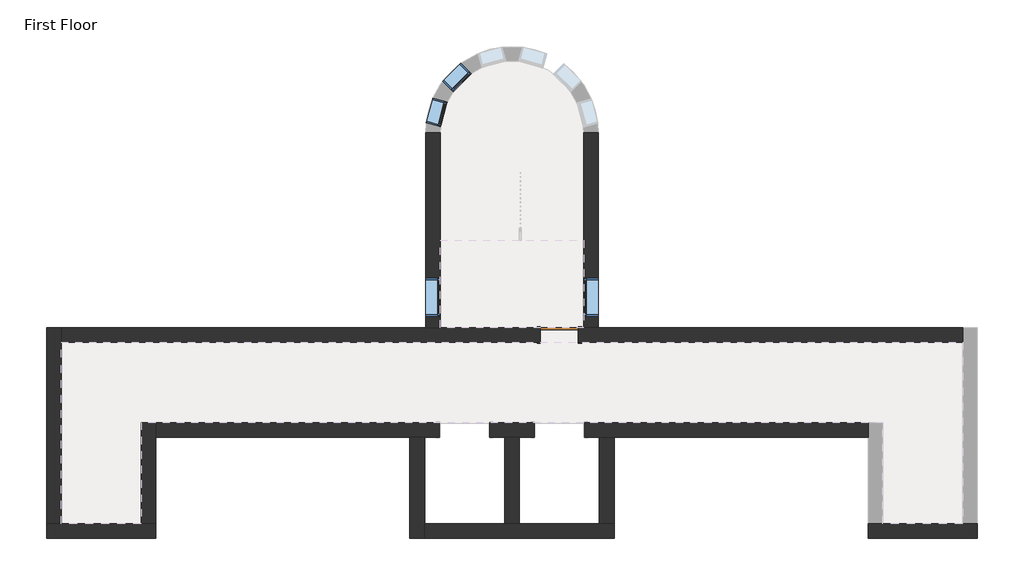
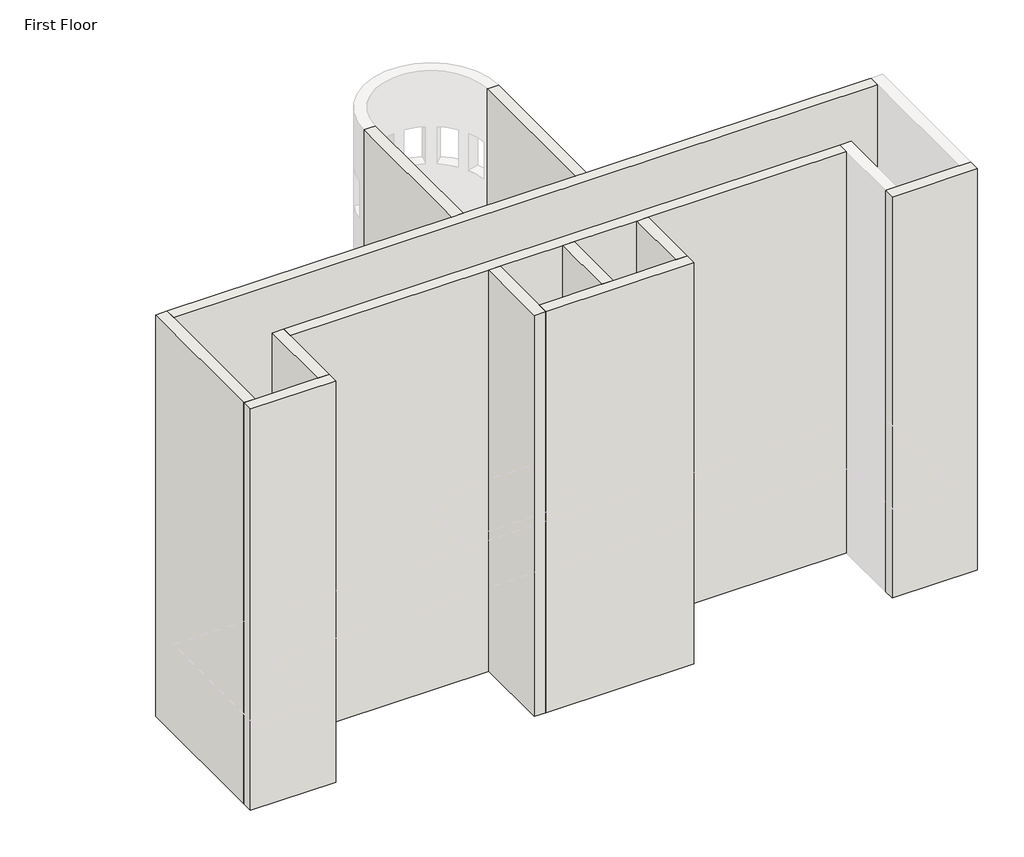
# One storey, part 1 of 5: 12 walls, 4 windows, 1 door.
"""IFC4 building model written with IfcOpenShell, lengths in millimetres."""

import ifcopenshell
import ifcopenshell.guid

model = None  # the IFC model being written
_history = None  # IfcOwnerHistory: only IFC2X3 demands one
_inside = {}  # id of a spatial element -> (the spatial element, [elements in it])
_under = {}  # id of a project, library or spatial element -> (it, [spatial elements below it])
_declared = {}  # id of a project -> (the project, [libraries it declares])
_typed = {}  # id of a type object -> (the type object, [elements of that type])
_made_of = {}  # id of a material, layer set ... -> (it, [elements and type objects made of it])


def new_model(schema):
    """Start an empty IFC model of exactly this schema.

    Asked for "IFC4X3", IfcOpenShell would pick the latest addendum, in which some entities
    have other attributes; the version numbers below select the first issue.
    IFC2X3 requires an IfcOwnerHistory on every rooted entity: one is made here for all.
    """
    global model, _history
    if schema == "IFC4X3":
        model = ifcopenshell.file(schema_version=(4, 3, 0, 0))
    else:
        model = ifcopenshell.file(schema=schema)
    _inside.clear()
    _under.clear()
    _declared.clear()
    _typed.clear()
    _made_of.clear()
    _history = None
    if model.schema == "IFC2X3":
        org = make("IfcOrganization", Name="unknown")
        user = make(
            "IfcPersonAndOrganization",
            ThePerson=make("IfcPerson", FamilyName="unknown"),
            TheOrganization=org,
        )
        app = make(
            "IfcApplication",
            ApplicationDeveloper=org,
            Version="unknown",
            ApplicationFullName="unknown",
            ApplicationIdentifier="unknown",
        )
        _history = make(
            "IfcOwnerHistory",
            OwningUser=user,
            OwningApplication=app,
            ChangeAction="ADDED",
            CreationDate=0,
        )
    return model


def make(cls, **values):
    """One entity of the class cls with the attributes given. An attribute that is None is left unset."""
    return model.create_entity(
        cls, **{name: value for name, value in values.items() if value is not None}
    )


def rooted(cls, **values):
    """An entity with a GlobalId (a new one), such as an element, a storey or a relation."""
    return make(cls, GlobalId=ifcopenshell.guid.new(), OwnerHistory=_history, **values)


def si_unit(unit_type, name, prefix=None):
    """IfcSIUnit, for example si_unit("LENGTHUNIT", "METRE", prefix="MILLI")."""
    return make("IfcSIUnit", UnitType=unit_type, Prefix=prefix, Name=name)


def assignment(units):
    """IfcUnitAssignment: the units of a project."""
    return None if units is None else make("IfcUnitAssignment", Units=units)


def point(xyz):
    """IfcCartesianPoint."""
    return None if xyz is None else make("IfcCartesianPoint", Coordinates=xyz)


def direction(xyz):
    """IfcDirection."""
    return None if xyz is None else make("IfcDirection", DirectionRatios=xyz)


def frame(location, z_axis=None, x_axis=None):
    """IfcAxis2Placement3D, a coordinate frame: its origin and axes. An axis left out is left unset."""
    return make(
        "IfcAxis2Placement3D",
        Location=point(location),
        Axis=direction(z_axis),
        RefDirection=direction(x_axis),
    )


def origin():
    """The frame at (0, 0, 0) with its axes left unset."""
    return frame((0.0, 0.0, 0.0))


def origin_with_axes():
    """The frame at (0, 0, 0) with the z axis (0, 0, 1) and the x axis (1, 0, 0) written out."""
    return frame((0.0, 0.0, 0.0), z_axis=(0.0, 0.0, 1.0), x_axis=(1.0, 0.0, 0.0))


def place(relative_to, where):
    """IfcLocalPlacement: puts the frame where relative to a parent placement (None: the world)."""
    return make(
        "IfcLocalPlacement", PlacementRelTo=relative_to, RelativePlacement=where
    )


def context(
    kind, dimensions, precision=None, world=None, true_north=None, identifier=None
):
    """IfcGeometricRepresentationContext, for example the 3D "Model" context."""
    return make(
        "IfcGeometricRepresentationContext",
        ContextIdentifier=identifier,
        ContextType=kind,
        CoordinateSpaceDimension=dimensions,
        Precision=precision,
        WorldCoordinateSystem=world,
        TrueNorth=true_north,
    )


def project(units=None, contexts=None):
    """IfcProject with its units and contexts."""
    return rooted(
        "IfcProject",
        Name="project",
        RepresentationContexts=contexts,
        UnitsInContext=assignment(units),
    )


def spatial(cls, under=None, at=None, **own):
    """A site, building, storey or space (cls), placed at a placement, below another one or the project."""
    s = rooted(cls, ObjectPlacement=at, **own)
    if under is not None:
        _under.setdefault(under.id(), (under, []))[1].append(s)
    return s


def polyline(points):
    """IfcPolyline through the points."""
    return make("IfcPolyline", Points=[point(p) for p in points])


def outline(outer, holes=None, kind="AREA"):
    """IfcArbitraryClosedProfileDef: a profile drawn as a closed curve; with holes, ...WithVoids."""
    if holes is None:
        return make("IfcArbitraryClosedProfileDef", ProfileType=kind, OuterCurve=outer)
    return make(
        "IfcArbitraryProfileDefWithVoids",
        ProfileType=kind,
        OuterCurve=outer,
        InnerCurves=holes,
    )


def extrude(swept, where, along, depth):
    """IfcExtrudedAreaSolid: the profile swept, set in the frame where, extruded along a direction by depth."""
    return make(
        "IfcExtrudedAreaSolid",
        SweptArea=swept,
        Position=where,
        ExtrudedDirection=direction(along),
        Depth=depth,
    )


def faces_of(points, faces, orient=None, outer=None):
    """IfcFace entities. A face is a list of loops; a loop is a list of indices into points, from 0.

    orient and outer hold one flag for each loop. By default every Orientation is true, the
    first loop of a face is its IfcFaceOuterBound and the others are IfcFaceBound.
    """
    made = []
    for i, loops in enumerate(faces):
        bounds = []
        for j, loop in enumerate(loops):
            is_outer = j == 0 if outer is None else outer[i][j]
            bounds.append(
                make(
                    "IfcFaceOuterBound" if is_outer else "IfcFaceBound",
                    Bound=make("IfcPolyLoop", Polygon=[points[k] for k in loop]),
                    Orientation=True if orient is None else orient[i][j],
                )
            )
        made.append(make("IfcFace", Bounds=bounds))
    return made


def faceted_brep(points, faces, orient=None, outer=None, voids=None):
    """IfcFacetedBrep: a solid bounded by flat faces; with voids (closed shells), ...WithVoids."""
    shared = [point(p) for p in points]
    hull = make("IfcClosedShell", CfsFaces=faces_of(shared, faces, orient, outer))
    if voids is None:
        return make("IfcFacetedBrep", Outer=hull)
    return make(
        "IfcFacetedBrepWithVoids",
        Outer=hull,
        Voids=[
            make(cls, CfsFaces=faces_of(shared, fs, o, b)) for cls, fs, o, b in voids
        ],
    )


def shape(context_of_items, identifier, shape_type, items):
    """IfcShapeRepresentation: the items that make up one representation, for example the "Body"."""
    return make(
        "IfcShapeRepresentation",
        ContextOfItems=context_of_items,
        RepresentationIdentifier=identifier,
        RepresentationType=shape_type,
        Items=items,
    )


def source(mapping_origin, context_of_items, identifier, shape_type, items):
    """IfcRepresentationMap: a shape defined once, which mapped items show again and again."""
    return make(
        "IfcRepresentationMap",
        MappingOrigin=mapping_origin,
        MappedRepresentation=shape(context_of_items, identifier, shape_type, items),
    )


def transform(
    local_origin,
    x_axis=None,
    y_axis=None,
    z_axis=None,
    scale=None,
    scale2=None,
    scale3=None,
    uniform=True,
):
    """IfcCartesianTransformationOperator3D, or its non-uniform kind. x_axis, y_axis, z_axis: its Axis1, 2, 3."""
    if uniform:
        return make(
            "IfcCartesianTransformationOperator3D",
            Axis1=direction(x_axis),
            Axis2=direction(y_axis),
            LocalOrigin=point(local_origin),
            Scale=scale,
            Axis3=direction(z_axis),
        )
    return make(
        "IfcCartesianTransformationOperator3DnonUniform",
        Axis1=direction(x_axis),
        Axis2=direction(y_axis),
        LocalOrigin=point(local_origin),
        Scale=scale,
        Axis3=direction(z_axis),
        Scale2=scale2,
        Scale3=scale3,
    )


def mapped(mapping_source, mapping_target):
    """IfcMappedItem: shows the shape of a source again, moved by a transform."""
    return make(
        "IfcMappedItem", MappingSource=mapping_source, MappingTarget=mapping_target
    )


def made_of(thing, what):
    """Note that an element or type object is made of a material, layer set ...; save() writes the relation."""
    if what is not None:
        _made_of.setdefault(what.id(), (what, []))[1].append(thing)
    return thing


def element(
    cls,
    number,
    at=None,
    inside=None,
    cuts=None,
    type_object=None,
    material=None,
    context=None,
    identifier="Body",
    shape_type=None,
    held_by="IfcProductDefinitionShape",
    body=None,
    shapes=None,
    **own,
):
    """One element of the class cls, such as IfcWall. Its Tag is "e" and its number.

    at: its placement. inside: the storey or other place that contains it. cuts: it is an
    opening in that element (IfcRelVoidsElement). A single representation is given by context,
    identifier, shape_type and body (its items); several are given by shapes. held_by: the class
    of the entity that holds the representations. save() writes the other relations.
    """
    e = rooted(cls, Tag="e%d" % number, ObjectPlacement=at, **own)
    if body is not None:
        shapes = [shape(context, identifier, shape_type, body)]
    if shapes is not None:
        e.Representation = make(held_by, Representations=shapes)
    if inside is not None:
        _inside.setdefault(inside.id(), (inside, []))[1].append(e)
    if cuts is not None:
        rooted(
            "IfcRelVoidsElement", RelatingBuildingElement=cuts, RelatedOpeningElement=e
        )
    if type_object is not None:
        _typed.setdefault(type_object.id(), (type_object, []))[1].append(e)
    return made_of(e, material)


def aggregate(whole, parts):
    """IfcRelAggregates: a whole, such as a stair, and the parts it consists of."""
    return rooted("IfcRelAggregates", RelatingObject=whole, RelatedObjects=parts)


def save(model, path):
    """Write the relations noted so far, then the file.

    IfcRelAggregates (storeys below a building ...), IfcRelContainedInSpatialStructure (elements
    in a storey), IfcRelDefinesByType, IfcRelAssociatesMaterial and IfcRelDeclares: one each for
    every whole, place, type object, material and project.
    """
    for whole, parts in _under.values():
        aggregate(whole, parts)
    for where, things in _inside.values():
        rooted(
            "IfcRelContainedInSpatialStructure",
            RelatedElements=things,
            RelatingStructure=where,
        )
    for kind, things in _typed.values():
        rooted("IfcRelDefinesByType", RelatedObjects=things, RelatingType=kind)
    for what, things in _made_of.values():
        rooted("IfcRelAssociatesMaterial", RelatedObjects=things, RelatingMaterial=what)
    for by, libraries in _declared.values():
        rooted("IfcRelDeclares", RelatingContext=by, RelatedDefinitions=libraries)
    model.write(path)


def door_632be17d(model_context):
    return source(origin(), model_context, "Body", "SweptSolid", [
        extrude(outline(polyline([(2209.8, -533.4), (0.0, -533.4), (0.0, -457.2), (2133.6, -457.2), (2133.6, 457.2), (0.0, 457.2), (0.0, 533.4), (2209.8, 533.4), (2209.8, -533.4)])), frame((0.0, 176.2125, 0.0), z_axis=(0.0, 1.0, 0.0), x_axis=(0.0, 0.0, 1.0)), (0.0, 0.0, 1.0), 25.4),
        extrude(outline(polyline([(2209.8, 533.4), (2209.8, -533.4), (0.0, -533.4), (0.0, -457.2), (2133.6, -457.2), (2133.6, 457.2), (0.0, 457.2), (0.0, 533.4), (2209.8, 533.4)])), frame((0.0, -201.6125, 0.0), z_axis=(0.0, 1.0, 0.0), x_axis=(0.0, 0.0, 1.0)), (0.0, 0.0, 1.0), 25.4),
        extrude(outline(polyline([(457.2, 125.4125), (-457.2, 125.4125), (-457.2, 176.2125), (457.2, 176.2125), (457.2, 125.4125)])), origin_with_axes(), (0.0, 0.0, 1.0), 2133.6),
    ])


def window_60baf983(model_context):
    return source(origin(), model_context, "Body", "SweptSolid", [
        extrude(outline(polyline([(203.2, 128.5875), (-279.4, 128.5875), (-279.4, 141.2875), (203.2, 141.2875), (203.2, 128.5875)])), frame((0.0, 0.0, 977.9), z_axis=(0.0, 0.0, 1.0), x_axis=(1.0, 0.0, 0.0)), (0.0, 0.0, 1.0), 1092.2),
        extrude(outline(polyline([(2114.55, -323.85), (933.45, -323.85), (933.45, 247.65), (2114.55, 247.65), (2114.55, -323.85)]), holes=[polyline([(2070.1, -279.4), (2070.1, 203.2), (977.9, 203.2), (977.9, -279.4), (2070.1, -279.4)])]), frame((0.0, 112.7125, 0.0), z_axis=(0.0, 1.0, 0.0), x_axis=(0.0, 0.0, 1.0)), (0.0, 0.0, 1.0), 44.45),
        extrude(outline(polyline([(2133.6, -342.9), (914.4, -342.9), (914.4, 266.7), (2133.6, 266.7), (2133.6, -342.9)]), holes=[polyline([(2101.85, -311.15), (2101.85, 234.95), (946.15, 234.95), (946.15, -311.15), (2101.85, -311.15)])]), frame((0.0, -176.2125, 0.0), z_axis=(0.0, 1.0, 0.0), x_axis=(0.0, 0.0, 1.0)), (0.0, 0.0, 1.0), 288.925),
        extrude(outline(polyline([(2133.6, 266.7), (2133.6, -342.9), (914.4, -342.9), (914.4, 266.7), (2133.6, 266.7)]), holes=[polyline([(2114.55, 247.65), (933.45, 247.65), (933.45, -323.85), (2114.55, -323.85), (2114.55, 247.65)])]), frame((0.0, 112.7125, 0.0), z_axis=(0.0, 1.0, 0.0), x_axis=(0.0, 0.0, 1.0)), (0.0, 0.0, 1.0), 63.5),
    ])


def window_15c49d37(model_context):
    return source(origin(), model_context, "Body", "SweptSolid", [
        extrude(outline(polyline([(355.6, 128.5875), (-431.8, 128.5875), (-431.8, 141.2875), (355.6, 141.2875), (355.6, 128.5875)])), frame((0.0, 0.0, 977.9), z_axis=(0.0, 0.0, 1.0), x_axis=(1.0, 0.0, 0.0)), (0.0, 0.0, 1.0), 1092.2),
        extrude(outline(polyline([(2114.55, -476.25), (933.45, -476.25), (933.45, 400.05), (2114.55, 400.05), (2114.55, -476.25)]), holes=[polyline([(2070.1, -431.8), (2070.1, 355.6), (977.9, 355.6), (977.9, -431.8), (2070.1, -431.8)])]), frame((0.0, 112.7125, 0.0), z_axis=(0.0, 1.0, 0.0), x_axis=(0.0, 0.0, 1.0)), (0.0, 0.0, 1.0), 44.45),
        extrude(outline(polyline([(2133.6, -495.3), (914.4, -495.3), (914.4, 419.1), (2133.6, 419.1), (2133.6, -495.3)]), holes=[polyline([(2101.85, -463.55), (2101.85, 387.35), (946.15, 387.35), (946.15, -463.55), (2101.85, -463.55)])]), frame((0.0, -176.2125, 0.0), z_axis=(0.0, 1.0, 0.0), x_axis=(0.0, 0.0, 1.0)), (0.0, 0.0, 1.0), 288.925),
        extrude(outline(polyline([(2133.6, 419.1), (2133.6, -495.3), (914.4, -495.3), (914.4, 419.1), (2133.6, 419.1)]), holes=[polyline([(2114.55, 400.05), (933.45, 400.05), (933.45, -476.25), (2114.55, -476.25), (2114.55, 400.05)])]), frame((0.0, 112.7125, 0.0), z_axis=(0.0, 1.0, 0.0), x_axis=(0.0, 0.0, 1.0)), (0.0, 0.0, 1.0), 63.5),
    ])


model = new_model("IFC4")

# Units and contexts
model_context = context("Model", 3, world=origin())
ifc_project = project(units=[si_unit("LENGTHUNIT", "METRE", prefix="MILLI")], contexts=[model_context])

# Site, building, storey
site = spatial("IfcSite", under=ifc_project)
building = spatial("IfcBuilding", under=site)
storey = spatial("IfcBuildingStorey", under=building, Name="First Floor", Elevation=0.0)

# Door
placement = place(None, origin())
door_shape = door_632be17d(model_context)
element("IfcDoor", 1, ObjectType="Single-Flush : 36\" x 84\"", at=placement, inside=storey, context=model_context, shape_type="MappedRepresentation", body=[
    mapped(door_shape, transform((-5102.6149687, 4715.9758812, 0.0), x_axis=(1.0, 0.0, 0.0), y_axis=(0.0, 1.0, 0.0), z_axis=(0.0, 0.0, 1.0))),
])

# Walls
element("IfcWall", 2, ObjectType="Exterior - Brick on Mtl. Stud", at=placement, inside=storey, context=model_context, shape_type="Brep", body=[
    faceted_brep([(-8707.8274687, 2253.7633812, 0.0), (-8707.8274687, -184.6366188, 0.0), (-8707.8274687, -184.6366188, 13106.4), (-8707.8274687, 2253.7633812, 13106.4), (-8355.4024687, 2253.7633812, 0.0), (-8355.4024687, 2253.7633812, 13106.4), (-8355.4024687, 167.7883812, 13106.4), (-8355.4024687, -184.6366188, 13106.4), (-8355.4024687, -184.6366188, 0.0), (-8355.4024687, 167.7883812, 0.0)], [[[0, 1, 2, 3]], [[4, 5, 6, 7, 8, 9]], [[1, 0, 4, 9, 8]], [[3, 2, 7, 6, 5]], [[2, 1, 8, 7]], [[0, 3, 5, 4]]]),
])
element("IfcWall", 3, ObjectType="Exterior - Brick on Mtl. Stud", at=placement, inside=storey, context=model_context, shape_type="Brep", body=[
    faceted_brep([(-8355.4024687, -184.6366188, 0.0), (-3783.4024687, -184.6366188, 0.0), (-3783.4024687, -184.6366188, 13106.4), (-8355.4024687, -184.6366188, 13106.4), (-8355.4024687, 167.7883812, 0.0), (-8355.4024687, 167.7883812, 13106.4), (-6421.8274687, 167.7883812, 13106.4), (-6069.4024687, 167.7883812, 13106.4), (-4135.8274687, 167.7883812, 13106.4), (-3783.4024687, 167.7883812, 13106.4), (-3783.4024687, 167.7883812, 0.0), (-4135.8274687, 167.7883812, 0.0), (-6069.4024687, 167.7883812, 0.0), (-6421.8274687, 167.7883812, 0.0)], [[[0, 1, 2, 3]], [[4, 5, 6, 7, 8, 9, 10, 11, 12, 13]], [[1, 0, 4, 13, 12, 11, 10]], [[3, 2, 9, 8, 7, 6, 5]], [[2, 1, 10, 9]], [[0, 3, 5, 4]]]),
])
element("IfcWall", 4, ObjectType="Exterior - Brick on Mtl. Stud", at=placement, inside=storey, context=model_context, shape_type="SweptSolid", body=[
    extrude(outline(polyline([(-3783.4024687, 2253.7633812), (-3783.4024687, 167.7883812), (-4135.8274687, 167.7883812), (-4135.8274687, 2253.7633812), (-3783.4024687, 2253.7633812)])), origin_with_axes(), (0.0, 0.0, 1.0), 13106.4),
])
element("IfcWall", 5, ObjectType="Exterior - Brick on Mtl. Stud", at=placement, inside=storey, context=model_context, shape_type="Brep", body=[
    faceted_brep([(-14832.4024687, 2606.1883812, 0.0), (-7998.2149687, 2606.1883812, 0.0), (-7998.2149687, 2253.7633812, 0.0), (-8355.4024687, 2253.7633812, 0.0), (-8707.8274687, 2253.7633812, 0.0), (-14832.4024687, 2253.7633812, 0.0), (-6779.0149687, 2606.1883812, 0.0), (-5712.2149687, 2606.1883812, 0.0), (-5712.2149687, 2253.7633812, 0.0), (-6069.4024687, 2253.7633812, 0.0), (-6421.8274687, 2253.7633812, 0.0), (-6779.0149687, 2253.7633812, 0.0), (-4493.0149687, 2606.1883812, 0.0), (2341.1725313, 2606.1883812, 0.0), (2341.1725313, 2253.7633812, 0.0), (-3783.4024687, 2253.7633812, 0.0), (-4135.8274687, 2253.7633812, 0.0), (-4493.0149687, 2253.7633812, 0.0), (-14832.4024687, 2253.7633812, 13106.4), (-8707.8274687, 2253.7633812, 13106.4), (-8355.4024687, 2253.7633812, 13106.4), (-6421.8274687, 2253.7633812, 13106.4), (-6069.4024687, 2253.7633812, 13106.4), (-4135.8274687, 2253.7633812, 13106.4), (-3783.4024687, 2253.7633812, 13106.4), (2341.1725313, 2253.7633812, 13106.4), (2341.1725313, 2606.1883812, 13106.4), (-14832.4024687, 2606.1883812, 13106.4), (-5712.2149687, 2253.7633812, 2133.6), (-4493.0149687, 2253.7633812, 2133.6), (-7998.2149687, 2253.7633812, 2133.6), (-6779.0149687, 2253.7633812, 2133.6), (-4493.0149687, 2253.7633812, 11277.6), (-4493.0149687, 2253.7633812, 9144.0), (-5712.2149687, 2253.7633812, 9144.0), (-5712.2149687, 2253.7633812, 11277.6), (-6779.0149687, 2253.7633812, 11277.6), (-6779.0149687, 2253.7633812, 9144.0), (-7998.2149687, 2253.7633812, 9144.0), (-7998.2149687, 2253.7633812, 11277.6), (-4493.0149687, 2253.7633812, 5181.6), (-4493.0149687, 2253.7633812, 3048.0), (-5712.2149687, 2253.7633812, 3048.0), (-5712.2149687, 2253.7633812, 5181.6), (-6779.0149687, 2253.7633812, 5181.6), (-6779.0149687, 2253.7633812, 3048.0), (-7998.2149687, 2253.7633812, 3048.0), (-7998.2149687, 2253.7633812, 5181.6), (-4493.0149687, 2253.7633812, 8229.6), (-4493.0149687, 2253.7633812, 6096.0), (-5712.2149687, 2253.7633812, 6096.0), (-5712.2149687, 2253.7633812, 8229.6), (-6779.0149687, 2253.7633812, 8229.6), (-6779.0149687, 2253.7633812, 6096.0), (-7998.2149687, 2253.7633812, 6096.0), (-7998.2149687, 2253.7633812, 8229.6), (-5712.2149687, 2606.1883812, 2133.6), (-6779.0149687, 2606.1883812, 2133.6), (-7998.2149687, 2606.1883812, 2133.6), (-4493.0149687, 2606.1883812, 2133.6), (-4493.0149687, 2606.1883812, 11277.6), (-5712.2149687, 2606.1883812, 11277.6), (-5712.2149687, 2606.1883812, 9144.0), (-4493.0149687, 2606.1883812, 9144.0), (-6779.0149687, 2606.1883812, 11277.6), (-7998.2149687, 2606.1883812, 11277.6), (-7998.2149687, 2606.1883812, 9144.0), (-6779.0149687, 2606.1883812, 9144.0), (-4493.0149687, 2606.1883812, 5181.6), (-5712.2149687, 2606.1883812, 5181.6), (-5712.2149687, 2606.1883812, 3048.0), (-4493.0149687, 2606.1883812, 3048.0), (-6779.0149687, 2606.1883812, 5181.6), (-7998.2149687, 2606.1883812, 5181.6), (-7998.2149687, 2606.1883812, 3048.0), (-6779.0149687, 2606.1883812, 3048.0), (-4493.0149687, 2606.1883812, 8229.6), (-5712.2149687, 2606.1883812, 8229.6), (-5712.2149687, 2606.1883812, 6096.0), (-4493.0149687, 2606.1883812, 6096.0), (-6779.0149687, 2606.1883812, 8229.6), (-7998.2149687, 2606.1883812, 8229.6), (-7998.2149687, 2606.1883812, 6096.0), (-6779.0149687, 2606.1883812, 6096.0)], [[[0, 1, 2, 3, 4, 5]], [[6, 7, 8, 9, 10, 11]], [[12, 13, 14, 15, 16, 17]], [[18, 19, 20, 21, 22, 23, 24, 25, 26, 27]], [[11, 10, 9, 8, 28, 29, 17, 16, 15, 14, 25, 24, 23, 22, 21, 20, 19, 18, 5, 4, 3, 2, 30, 31], [32, 33, 34, 35], [36, 37, 38, 39], [40, 41, 42, 43], [44, 45, 46, 47], [48, 49, 50, 51], [52, 53, 54, 55]], [[56, 7, 6, 57, 58, 1, 0, 27, 26, 13, 12, 59], [60, 61, 62, 63], [64, 65, 66, 67], [68, 69, 70, 71], [72, 73, 74, 75], [76, 77, 78, 79], [80, 81, 82, 83]], [[25, 14, 13, 26]], [[5, 18, 27, 0]], [[11, 31, 57, 6]], [[30, 2, 1, 58]], [[31, 30, 58, 57]], [[17, 29, 59, 12]], [[28, 8, 7, 56]], [[29, 28, 56, 59]], [[33, 32, 60, 63]], [[34, 33, 63, 62]], [[35, 34, 62, 61]], [[32, 35, 61, 60]], [[37, 36, 64, 67]], [[38, 37, 67, 66]], [[39, 38, 66, 65]], [[36, 39, 65, 64]], [[41, 40, 68, 71]], [[42, 41, 71, 70]], [[43, 42, 70, 69]], [[40, 43, 69, 68]], [[45, 44, 72, 75]], [[46, 45, 75, 74]], [[47, 46, 74, 73]], [[44, 47, 73, 72]], [[49, 48, 76, 79]], [[50, 49, 79, 78]], [[51, 50, 78, 77]], [[48, 51, 77, 76]], [[53, 52, 80, 83]], [[54, 53, 83, 82]], [[55, 54, 82, 81]], [[52, 55, 81, 80]]]),
])
element("IfcWall", 6, ObjectType="Exterior - Brick on Mtl. Stud", at=placement, inside=storey, context=model_context, shape_type="SweptSolid", body=[
    extrude(outline(polyline([(4892.1883812, 0.0), (4892.1883812, 13106.4), (9592.7758812, 13106.4), (9592.7758812, 0.0), (4892.1883812, 0.0)]), holes=[polyline([(5173.1758812, 2133.6), (5173.1758812, 914.4), (6087.5758812, 914.4), (6087.5758812, 2133.6), (5173.1758812, 2133.6)]), polyline([(5173.1758812, 11277.6), (5173.1758812, 10058.4), (6087.5758812, 10058.4), (6087.5758812, 11277.6), (5173.1758812, 11277.6)]), polyline([(5173.1758812, 5181.6), (5173.1758812, 3962.4), (6087.5758812, 3962.4), (6087.5758812, 5181.6), (5173.1758812, 5181.6)]), polyline([(5173.1758812, 8229.6), (5173.1758812, 7010.4), (6087.5758812, 7010.4), (6087.5758812, 8229.6), (5173.1758812, 8229.6)])]), frame((-8326.8274687, 0.0, 0.0), z_axis=(1.0, 0.0, 0.0), x_axis=(0.0, 1.0, 0.0)), (0.0, 0.0, 1.0), 352.425),
])
element("IfcWall", 7, ObjectType="Exterior - Brick on Mtl. Stud", at=placement, inside=storey, context=model_context, shape_type="Brep", body=[
    faceted_brep([(4627.1725313, 4539.7633812, 0.0), (-4645.4149687, 4539.7633812, 0.0), (-4645.4149687, 4892.1883812, 0.0), (-4516.8274687, 4892.1883812, 0.0), (-4164.4024687, 4892.1883812, 0.0), (4627.1725313, 4892.1883812, 0.0), (-5559.8149687, 4539.7633812, 0.0), (-17118.4024687, 4539.7633812, 0.0), (-17118.4024687, 4892.1883812, 0.0), (-8326.8274687, 4892.1883812, 0.0), (-7974.4024687, 4892.1883812, 0.0), (-5559.8149687, 4892.1883812, 0.0), (4627.1725313, 4892.1883812, 13106.4), (-4164.4024687, 4892.1883812, 13106.4), (-4516.8274687, 4892.1883812, 13106.4), (-7974.4024687, 4892.1883812, 13106.4), (-8326.8274687, 4892.1883812, 13106.4), (-17118.4024687, 4892.1883812, 13106.4), (-17118.4024687, 4539.7633812, 13106.4), (4627.1725313, 4539.7633812, 13106.4), (-4645.4149687, 4892.1883812, 2133.6), (-5559.8149687, 4892.1883812, 2133.6), (-5559.8149687, 4892.1883812, 9144.0), (-4645.4149687, 4892.1883812, 9144.0), (-4645.4149687, 4892.1883812, 11277.6), (-5559.8149687, 4892.1883812, 11277.6), (-5559.8149687, 4892.1883812, 3048.0), (-4645.4149687, 4892.1883812, 3048.0), (-4645.4149687, 4892.1883812, 5181.6), (-5559.8149687, 4892.1883812, 5181.6), (-5559.8149687, 4892.1883812, 6096.0), (-4645.4149687, 4892.1883812, 6096.0), (-4645.4149687, 4892.1883812, 8229.6), (-5559.8149687, 4892.1883812, 8229.6), (-4645.4149687, 4539.7633812, 2133.6), (-5559.8149687, 4539.7633812, 2133.6), (-5559.8149687, 4539.7633812, 9144.0), (-5559.8149687, 4539.7633812, 11277.6), (-4645.4149687, 4539.7633812, 11277.6), (-4645.4149687, 4539.7633812, 9144.0), (-5559.8149687, 4539.7633812, 3048.0), (-5559.8149687, 4539.7633812, 5181.6), (-4645.4149687, 4539.7633812, 5181.6), (-4645.4149687, 4539.7633812, 3048.0), (-5559.8149687, 4539.7633812, 6096.0), (-5559.8149687, 4539.7633812, 8229.6), (-4645.4149687, 4539.7633812, 8229.6), (-4645.4149687, 4539.7633812, 6096.0)], [[[0, 1, 2, 3, 4, 5]], [[6, 7, 8, 9, 10, 11]], [[12, 13, 14, 15, 16, 17, 18, 19]], [[5, 4, 3, 2, 20, 21, 11, 10, 9, 8, 17, 16, 15, 14, 13, 12], [22, 23, 24, 25], [26, 27, 28, 29], [30, 31, 32, 33]], [[34, 1, 0, 19, 18, 7, 6, 35], [36, 37, 38, 39], [40, 41, 42, 43], [44, 45, 46, 47]], [[5, 12, 19, 0]], [[17, 8, 7, 18]], [[20, 2, 1, 34]], [[21, 20, 34, 35]], [[11, 21, 35, 6]], [[23, 22, 36, 39]], [[24, 23, 39, 38]], [[25, 24, 38, 37]], [[22, 25, 37, 36]], [[27, 26, 40, 43]], [[28, 27, 43, 42]], [[29, 28, 42, 41]], [[26, 29, 41, 40]], [[31, 30, 44, 47]], [[32, 31, 47, 46]], [[33, 32, 46, 45]], [[30, 33, 45, 44]]]),
])
element("IfcWall", 8, ObjectType="Exterior - Brick on Mtl. Stud", at=placement, inside=storey, context=model_context, shape_type="SweptSolid", body=[
    extrude(outline(polyline([(4892.1883812, 0.0), (4892.1883812, 13106.4), (9592.7758812, 13106.4), (9592.7758812, 0.0), (4892.1883812, 0.0)]), holes=[polyline([(6087.5758812, 2133.6), (5173.1758812, 2133.6), (5173.1758812, 914.4), (6087.5758812, 914.4), (6087.5758812, 2133.6)]), polyline([(6087.5758812, 11277.6), (5173.1758812, 11277.6), (5173.1758812, 10058.4), (6087.5758812, 10058.4), (6087.5758812, 11277.6)]), polyline([(6087.5758812, 5181.6), (5173.1758812, 5181.6), (5173.1758812, 3962.4), (6087.5758812, 3962.4), (6087.5758812, 5181.6)]), polyline([(6087.5758812, 8229.6), (5173.1758812, 8229.6), (5173.1758812, 7010.4), (6087.5758812, 7010.4), (6087.5758812, 8229.6)])]), frame((-4516.8274687, 0.0, 0.0), z_axis=(1.0, 0.0, 0.0), x_axis=(0.0, 1.0, 0.0)), (0.0, 0.0, 1.0), 352.425),
])
element("IfcWall", 9, ObjectType="Exterior - Brick on Mtl. Stud", at=placement, inside=storey, context=model_context, shape_type="SweptSolid", body=[
    extrude(outline(polyline([(-6069.4024687, 2253.7633812), (-6069.4024687, 167.7883812), (-6421.8274687, 167.7883812), (-6421.8274687, 2253.7633812), (-6069.4024687, 2253.7633812)])), origin_with_axes(), (0.0, 0.0, 1.0), 13106.4),
])
element("IfcWall", 10, ObjectType="Exterior - Brick on Mtl. Stud", at=placement, inside=storey, context=model_context, shape_type="Brep", body=[
    faceted_brep([(4979.5975313, 167.7883812, 0.0), (4627.1725313, 167.7883812, 0.0), (2693.5975313, 167.7883812, 0.0), (2341.1725313, 167.7883812, 0.0), (2341.1725313, 167.7883812, 13106.4), (2693.5975313, 167.7883812, 13106.4), (4627.1725313, 167.7883812, 13106.4), (4979.5975313, 167.7883812, 13106.4), (4979.5975313, -184.6366188, 0.0), (4979.5975313, -184.6366188, 13106.4), (2341.1725313, -184.6366188, 13106.4), (2341.1725313, -184.6366188, 0.0)], [[[0, 1, 2, 3, 4, 5, 6, 7]], [[8, 9, 10, 11]], [[3, 2, 1, 0, 8, 11]], [[7, 6, 5, 4, 10, 9]], [[4, 3, 11, 10]], [[0, 7, 9, 8]]]),
])
element("IfcWall", 11, ObjectType="Exterior - Brick on Mtl. Stud", at=placement, inside=storey, context=model_context, shape_type="Brep", body=[
    faceted_brep([(-17470.8274687, -184.6366188, 0.0), (-14832.4024687, -184.6366188, 0.0), (-14832.4024687, -184.6366188, 13106.4), (-17470.8274687, -184.6366188, 13106.4), (-17470.8274687, 167.7883812, 0.0), (-17470.8274687, 167.7883812, 13106.4), (-17118.4024687, 167.7883812, 13106.4), (-15184.8274687, 167.7883812, 13106.4), (-14832.4024687, 167.7883812, 13106.4), (-14832.4024687, 167.7883812, 0.0), (-15184.8274687, 167.7883812, 0.0), (-17118.4024687, 167.7883812, 0.0)], [[[0, 1, 2, 3]], [[4, 5, 6, 7, 8, 9, 10, 11]], [[1, 0, 4, 11, 10, 9]], [[3, 2, 8, 7, 6, 5]], [[2, 1, 9, 8]], [[0, 3, 5, 4]]]),
])
element("IfcWall", 12, ObjectType="Exterior - Brick on Mtl. Stud", at=placement, inside=storey, context=model_context, shape_type="Brep", body=[
    faceted_brep([(-15184.8274687, 2606.1883812, 0.0), (-15184.8274687, 167.7883812, 0.0), (-15184.8274687, 167.7883812, 13106.4), (-15184.8274687, 2606.1883812, 13106.4), (-14832.4024687, 2606.1883812, 0.0), (-14832.4024687, 2606.1883812, 13106.4), (-14832.4024687, 2253.7633812, 13106.4), (-14832.4024687, 167.7883812, 13106.4), (-14832.4024687, 167.7883812, 0.0), (-14832.4024687, 2253.7633812, 0.0)], [[[0, 1, 2, 3]], [[4, 5, 6, 7, 8, 9]], [[1, 0, 4, 9, 8]], [[3, 2, 7, 6, 5]], [[0, 3, 5, 4]], [[2, 1, 8, 7]]]),
])
element("IfcWall", 13, ObjectType="Exterior - Brick on Mtl. Stud", at=placement, inside=storey, context=model_context, shape_type="Brep", body=[
    faceted_brep([(-17118.4024687, 167.7883812, 0.0), (-17118.4024687, 4539.7633812, 0.0), (-17118.4024687, 4892.1883812, 0.0), (-17118.4024687, 4892.1883812, 13106.4), (-17118.4024687, 4539.7633812, 13106.4), (-17118.4024687, 167.7883812, 13106.4), (-17470.8274687, 167.7883812, 0.0), (-17470.8274687, 167.7883812, 13106.4), (-17470.8274687, 4892.1883812, 13106.4), (-17470.8274687, 4892.1883812, 0.0)], [[[0, 1, 2, 3, 4, 5]], [[6, 7, 8, 9]], [[2, 1, 0, 6, 9]], [[5, 4, 3, 8, 7]], [[3, 2, 9, 8]], [[0, 5, 7, 6]]]),
])

# Windows
window_shape = window_60baf983(model_context)
element("IfcWindow", 14, ObjectType="Fixed : 24\" x 48\"", at=placement, inside=storey, context=model_context, shape_type="MappedRepresentation", body=[
    mapped(window_shape, transform((-8072.5076754, 10048.7859441, 0.0), x_axis=(-0.2617614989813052, -0.9651325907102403, 0.0), y_axis=(0.9651325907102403, -0.2617614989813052, 0.0), z_axis=(0.0, 0.0, 1.0))),
])
element("IfcWindow", 15, ObjectType="Fixed : 24\" x 48\"", at=placement, inside=storey, context=model_context, shape_type="MappedRepresentation", body=[
    mapped(window_shape, transform((-7599.7454312, 10901.1385333, 0.0), x_axis=(-0.7092584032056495, -0.7049485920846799, 0.0), y_axis=(0.7049485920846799, -0.7092584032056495, 0.0), z_axis=(0.0, 0.0, 1.0))),
])
window_2_shape = window_15c49d37(model_context)
element("IfcWindow", 16, ObjectType="Fixed : 36\" x 48\"", at=placement, inside=storey, context=model_context, shape_type="MappedRepresentation", body=[
    mapped(window_2_shape, transform((-8150.6149687, 5592.2758812, 0.0), x_axis=(0.0, -1.0, 0.0), y_axis=(1.0, 0.0, 0.0), z_axis=(0.0, 0.0, 1.0))),
])
element("IfcWindow", 17, ObjectType="Fixed : 36\" x 48\"", at=placement, inside=storey, context=model_context, shape_type="MappedRepresentation", body=[
    mapped(window_2_shape, transform((-4340.6149687, 5668.4758812, 0.0), x_axis=(0.0, 1.0, 0.0), y_axis=(-1.0, 0.0, 0.0), z_axis=(0.0, 0.0, 1.0))),
])

save(model, "model.ifc")
